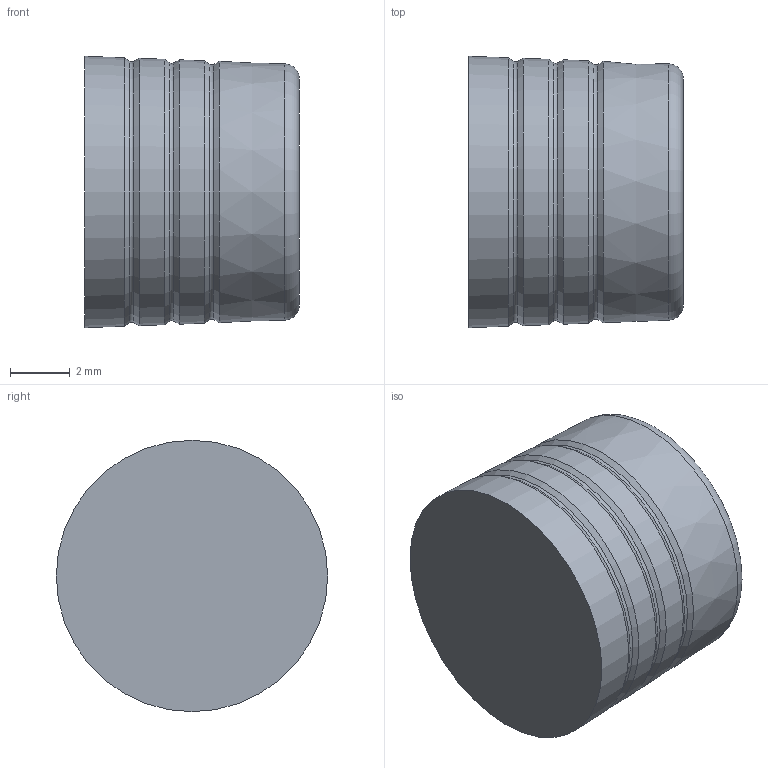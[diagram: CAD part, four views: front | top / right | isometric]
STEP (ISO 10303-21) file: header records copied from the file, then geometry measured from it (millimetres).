
FILE_DESCRIPTION(/* description */ ('LEE BETAPLUG, 9mm, SHORT, INDENT'),/* implementation_level */ '2;1');
FILE_NAME(/* name */ '\\ABSOLUTE\SmWork\Vernon\PLBA0903610S.stp',/* time_stamp */ '2021-03-23T15:11:35-04:00',/* author */ ('VernonJ'),/* organization */ (''),/* preprocessor_version */ 'ST-DEVELOPER v18',/* originating_system */ 'Autodesk Inventor 2020',/* authorisation */ '');
FILE_SCHEMA (('AUTOMOTIVE_DESIGN { 1 0 10303 214 3 1 1 }'));
Length unit declared in the file: millimetre
Products named in the file (1): PLBA0903610S
Bounding box: 7.17 x 9.07 x 9.07 mm (x, y, z)
Volume: 431.9 mm3; surface area: 319.7 mm2
Topology: 1 solids, 1 shells, 16 faces, 51 edges, 37 vertices
Faces by surface type: cone 10, torus 4, plane 2
Entity records: 649 total; most frequent: DIRECTION 126, CARTESIAN_POINT 105, ORIENTED_EDGE 102, AXIS2_PLACEMENT_3D 58, EDGE_CURVE 51, CIRCLE 41, VERTEX_POINT 37, FACE_OUTER_BOUND 16
